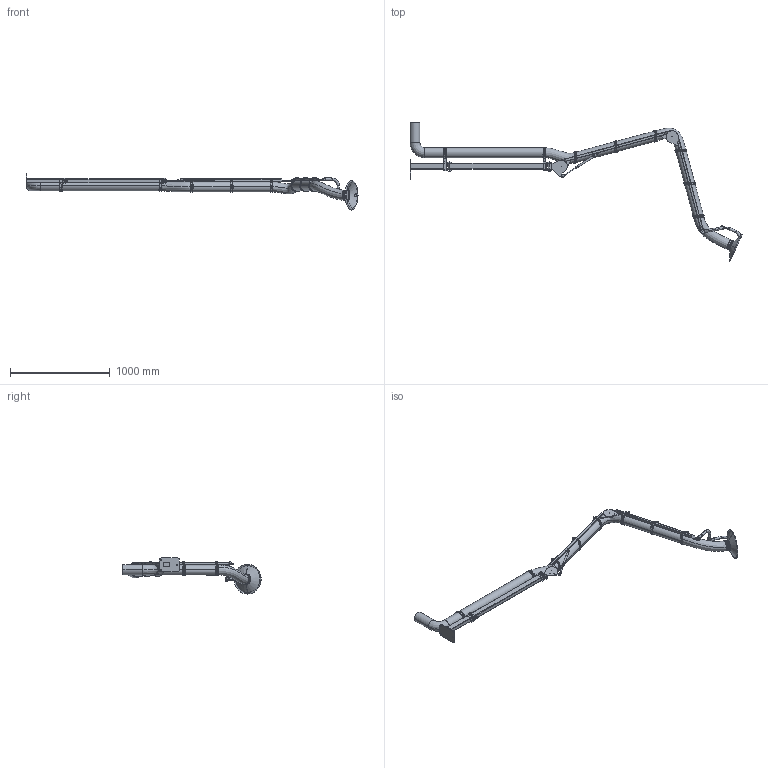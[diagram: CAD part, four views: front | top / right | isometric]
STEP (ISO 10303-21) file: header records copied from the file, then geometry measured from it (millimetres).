
FILE_DESCRIPTION((''),'2;1');
FILE_NAME('PSR_4000-100_EXC','2022-10-04T13:23:29',('Tomas Bellgran'),(''),'CREO PARAMETRIC BY PTC INC, 2018260','CREO PARAMETRIC BY PTC INC, 2018260','');
FILE_SCHEMA(('AUTOMOTIVE_DESIGN { 1 0 10303 214 1 1 1 1 }'));
Length unit declared in the file: millimetre
Products named in the file (34): 141558; 141580; 141581; 122701; 141514; 141560; 141582; 141587; 141524; 121391; 131150_LIGHT; 139380_LIGHT; 131151_LIGHT; 131170_LIGHT; 144356; 141589; 134343_AF0; G_P136_WELD-REF; 141590; 120626; 122750_LIGHT; 122717_LIGHT; 120127_COMPL_LIGHT; 130317; ROD_STAB_8-160-REF; 131095; 130322_AF1; 131145; 147054_EXC; 124460; 107521-11; 121000_LIGHT; 107521-20; PSR_4000-100_EXC
Assembly tree (52 placements, depth 3):
  PSR_4000-100_EXC
    141514
      141558
      141580
      141581
      122701
    141524
      141560
      141582
      141587
    121391  x4
    131150_LIGHT
    131170_LIGHT
      139380_LIGHT
      131151_LIGHT
    144356  x2
    141590
      141589
      134343_AF0
      G_P136_WELD-REF
    120626
    122750_LIGHT
    122717_LIGHT
    120127_COMPL_LIGHT  x2
    130322_AF1
      130317
      ROD_STAB_8-160-REF
      131095  x2
    131145  x2
    147054_EXC
    124460  x6
    107521-11  x6
    121000_LIGHT  x2
    107521-20  x2
Bounding box: 3333.14 x 1388.34 x 362.95 mm (x, y, z)
Volume: 39141022.5 mm3; surface area: 2543153.6 mm2
Topology: 47 solids, 47 shells, 1280 faces, 3108 edges, 1927 vertices
Faces by surface type: plane 515, cylinder 381, bspline 286, extrusion 36, cone 34, torus 24, sphere 4
Entity records: 43134 total; most frequent: CARTESIAN_POINT 15595, DIRECTION 3483, ORIENTED_EDGE 3432, PRESENTATION_STYLE_ASSIGNMENT 2275, STYLED_ITEM 2252, CURVE_STYLE 1734, EDGE_CURVE 1716, AXIS2_PLACEMENT_3D 1306
